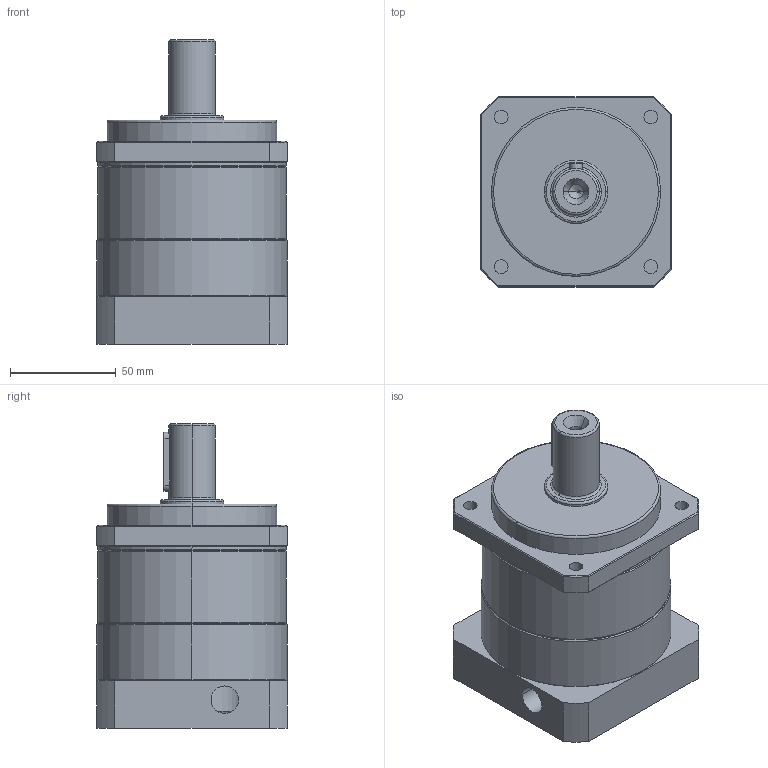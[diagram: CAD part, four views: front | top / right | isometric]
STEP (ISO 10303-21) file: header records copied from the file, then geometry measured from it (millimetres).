
FILE_DESCRIPTION (( 'STEP AP214' ), '1' );
FILE_NAME ('PBF90-L1-19×40-70-90M6 三维零件图.STEP', '2021-08-10T09:11:47', ( 'XJJ' ), ( '' ), 'SwSTEP 2.0', 'SolidWorks 2016', '' );
FILE_SCHEMA (( 'AUTOMOTIVE_DESIGN' ));
Length unit declared in the file: millimetre
Products named in the file (3): hexagon socket head cap screws gb_GB_FASTENER_SCREWS_HSHCS M6X20-N; PBF90-L1-19×40-70-90M6 三维外形图; PBF90-L1-19×40-70-90M6 三维零件图
Assembly tree (2 placements, depth 2):
  PBF90-L1-19×40-70-90M6 三维零件图
    PBF90-L1-19×40-70-90M6 三维外形图
    hexagon socket head cap screws gb_GB_FASTENER_SCREWS_HSHCS M6X20-N
Bounding box: 90 x 90 x 144 mm (x, y, z)
Volume: 640177.1 mm3; surface area: 70470.3 mm2
Topology: 2 solids, 2 shells, 170 faces, 394 edges, 233 vertices
Faces by surface type: cylinder 69, plane 54, cone 34, torus 13
Entity records: 5942 total; most frequent: CARTESIAN_POINT 1190, DIRECTION 888, ORIENTED_EDGE 764, EDGE_CURVE 382, AXIS2_PLACEMENT_3D 359, VERTEX_POINT 233, EDGE_LOOP 203, CIRCLE 184
